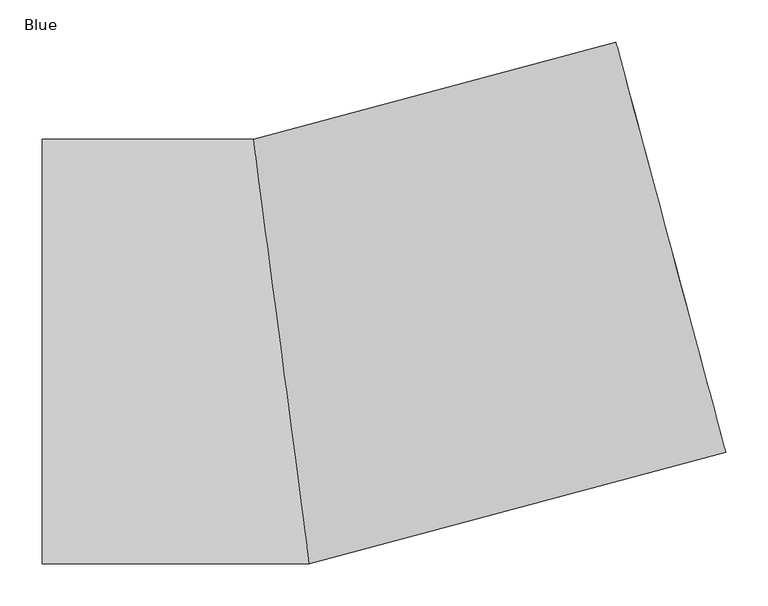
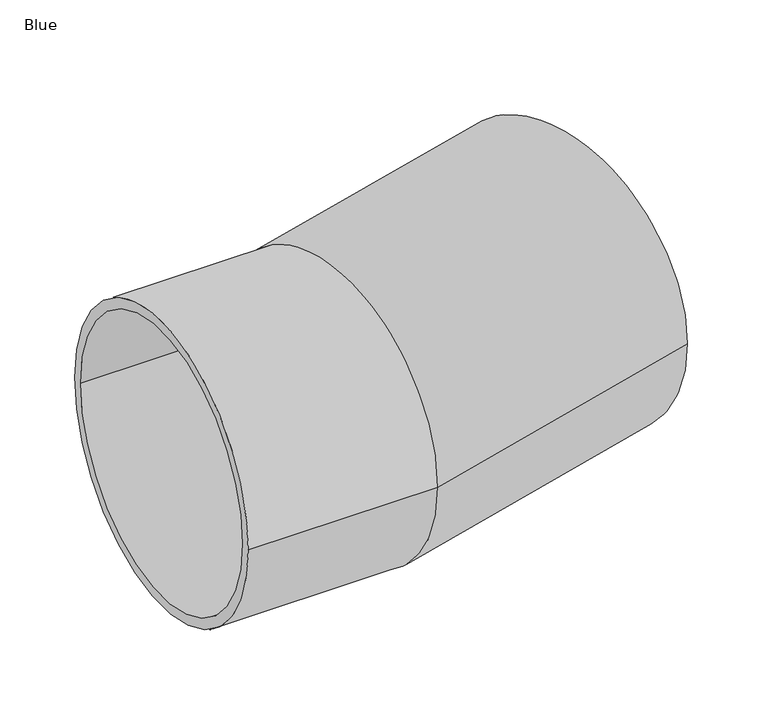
"""IFC4 building model written with IfcOpenShell, lengths in millimetres: pipe fitting geometry, AWADUKT PP SN10 SBend : Blue."""

from ifc_helpers import new_model, si_unit, frame, origin, place, context, project, spatial, polyline, circle_curve, ellipse_curve, source, transform, mapped, element, save
from ifc_brep_helpers import plane_surface, cylinder_surface, revolved_surface, advanced_brep


def blue_b37b0867(model_context):
    return source(origin(), model_context, "Body", "AdvancedBrep", [
        advanced_brep(
        [(394.1100062, 364.420503, 0.0), (523.5195288, -118.5424101, 0.0), (398.5358119, 347.9031714, 0.0), (519.0937231, -102.0250785, 0.0), (-30.6618667, 232.9, 0.0), (30.6618667, -232.9, 0.0), (-32.9131244, 250.0, 0.0), (32.9131244, -250.0, 0.0), (-282.0, 250.0, 0.0), (-282.0, -250.0, 0.0), (-282.0, 232.9, 0.0), (-282.0, -232.9, 0.0)],
        [
            (0, 1, circle_curve(frame((458.8147675, 122.9390464, 0.0), z_axis=(0.9659258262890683, 0.2588190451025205, 0.0), x_axis=(0.2588190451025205, -0.9659258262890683, 0.0)), 250.0)),
            (1, 0, circle_curve(frame((458.8147675, 122.9390464, 0.0), z_axis=(0.9659258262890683, 0.2588190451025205, 0.0), x_axis=(0.2588190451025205, -0.9659258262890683, 0.0)), 250.0)),
            (2, 3, circle_curve(frame((458.8147675, 122.9390464, 0.0), z_axis=(-0.9659258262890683, -0.2588190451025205, 0.0), x_axis=(0.2588190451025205, -0.9659258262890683, 0.0)), 232.9)),
            (3, 2, circle_curve(frame((458.8147675, 122.9390464, 0.0), z_axis=(-0.9659258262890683, -0.2588190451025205, 0.0), x_axis=(0.2588190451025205, -0.9659258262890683, 0.0)), 232.9)),
            (2, 4),
            (4, 5, ellipse_curve(frame((0.0, 0.0, 0.0), z_axis=(-0.9914448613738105, -0.1305261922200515, 0.0), x_axis=(0.1305261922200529, -0.9914448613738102, 0.0)), 234.9096849, 232.9)),
            (5, 3),
            (5, 4, ellipse_curve(frame((0.0, 0.0, 0.0), z_axis=(-0.9914448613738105, -0.1305261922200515, 0.0), x_axis=(0.1305261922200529, -0.9914448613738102, 0.0)), 234.9096849, 232.9)),
            (0, 6),
            (6, 7, ellipse_curve(frame((0.0, 0.0, 0.0), z_axis=(0.9914448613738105, 0.1305261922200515, 0.0), x_axis=(-0.1305261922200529, 0.9914448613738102, 0.0)), 252.1572401, 250.0)),
            (7, 1),
            (7, 6, ellipse_curve(frame((0.0, 0.0, 0.0), z_axis=(0.9914448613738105, 0.1305261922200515, 0.0), x_axis=(-0.1305261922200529, 0.9914448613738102, 0.0)), 252.1572401, 250.0)),
            (8, 9, circle_curve(frame((-282.0, 0.0, 0.0), z_axis=(-1.0, 0.0, 0.0), x_axis=(0.0, -1.0, 0.0)), 250.0)),
            (9, 8, circle_curve(frame((-282.0, 0.0, 0.0), z_axis=(-1.0, 0.0, 0.0), x_axis=(0.0, -1.0, 0.0)), 250.0)),
            (10, 11, circle_curve(frame((-282.0, 0.0, 0.0), z_axis=(1.0, 0.0, 0.0), x_axis=(0.0, -1.0, 0.0)), 232.9)),
            (11, 10, circle_curve(frame((-282.0, 0.0, 0.0), z_axis=(1.0, 0.0, 0.0), x_axis=(0.0, -1.0, 0.0)), 232.9)),
            (4, 10),
            (11, 5),
            (6, 8),
            (9, 7),
        ],
        [
            plane_surface(frame((458.8147675, 122.9390464, 0.0), z_axis=(0.9659258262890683, 0.2588190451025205, 0.0), x_axis=(0.0, 0.0, 1.0))),
            revolved_surface(polyline([(30.661866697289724, -232.90000002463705, 0.0), (519.0937231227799, -102.02507853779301, 0.0)]), (458.8147675, 122.9390464, 0.0), (-0.9659258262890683, -0.2588190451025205, 0.0)),
            cylinder_surface(frame((458.8147675, 122.9390464, 0.0), z_axis=(0.9659258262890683, 0.2588190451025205, 0.0), x_axis=(0.2588190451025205, -0.9659258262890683, 0.0)), 250.0),
            plane_surface(frame((-282.0, 0.0, 0.0), z_axis=(-1.0, 0.0, 0.0), x_axis=(0.0, 0.0, 1.0))),
            revolved_surface(polyline([(-282.0, -232.9, 0.0), (30.6618667, -232.9, 0.0)]), (0.0, 0.0, 0.0), (-1.0, 0.0, 0.0)),
            cylinder_surface(frame((0.0, 0.0, 0.0), z_axis=(1.0, 0.0, 0.0), x_axis=(0.0, -1.0, 0.0)), 250.0),
        ],
        [
            (0, [[1, 2], [3, 4]]),
            (1, [[-3, 5, 6, 7]]),
            (1, [[-4, -7, 8, -5]]),
            (2, [[-1, 9, 10, 11]]),
            (2, [[-2, -11, 12, -9]]),
            (3, [[13, 14], [15, 16]]),
            (4, [[-6, 17, -16, 18]]),
            (4, [[-8, -18, -15, -17]]),
            (5, [[-10, 19, -14, 20]]),
            (5, [[-12, -20, -13, -19]]),
        ],
    ),
    ])


if __name__ == "__main__":
    model = new_model("IFC4")
    model_context = context("Model", 3, world=origin())
    ifc_project = project(units=[si_unit("LENGTHUNIT", "METRE", prefix="MILLI")], contexts=[model_context])
    site = spatial("IfcSite", under=ifc_project)
    building = spatial("IfcBuilding", under=site)
    placement = place(None, origin())
    blue_shape = blue_b37b0867(model_context)
    element("IfcPipeFitting", 1, ObjectType="AWADUKT PP SN10 SBend : Blue", at=placement, inside=building, context=model_context, shape_type="MappedRepresentation", body=[
        mapped(blue_shape, transform((0.0, 0.0, 0.0), x_axis=(1.0, 0.0, 0.0), y_axis=(0.0, 1.0, 0.0), z_axis=(0.0, 0.0, 1.0))),
    ])
    save(model, "model.ifc")
